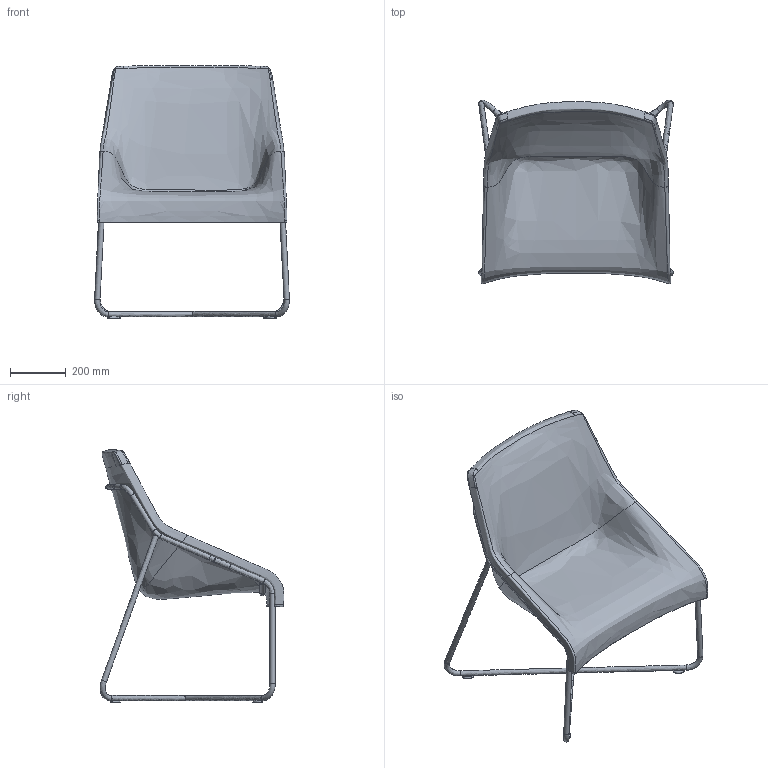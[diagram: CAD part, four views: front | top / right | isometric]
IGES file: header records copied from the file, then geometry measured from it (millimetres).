
Global section: file name: Poltroncina Aria; native system: Autodesk Inventor 2025; preprocessor: unknown; author: jramirez; date: 20260114.123830; units: millimetre
Bounding box: 701.64 x 662.39 x 910.37 mm (x, y, z)
Volume: 38552248.3 mm3; surface area: 2574589.9 mm2
Topology: 38 solids, 38 shells, 489 faces, 1369 edges, 964 vertices
Faces by surface type: bspline 489
